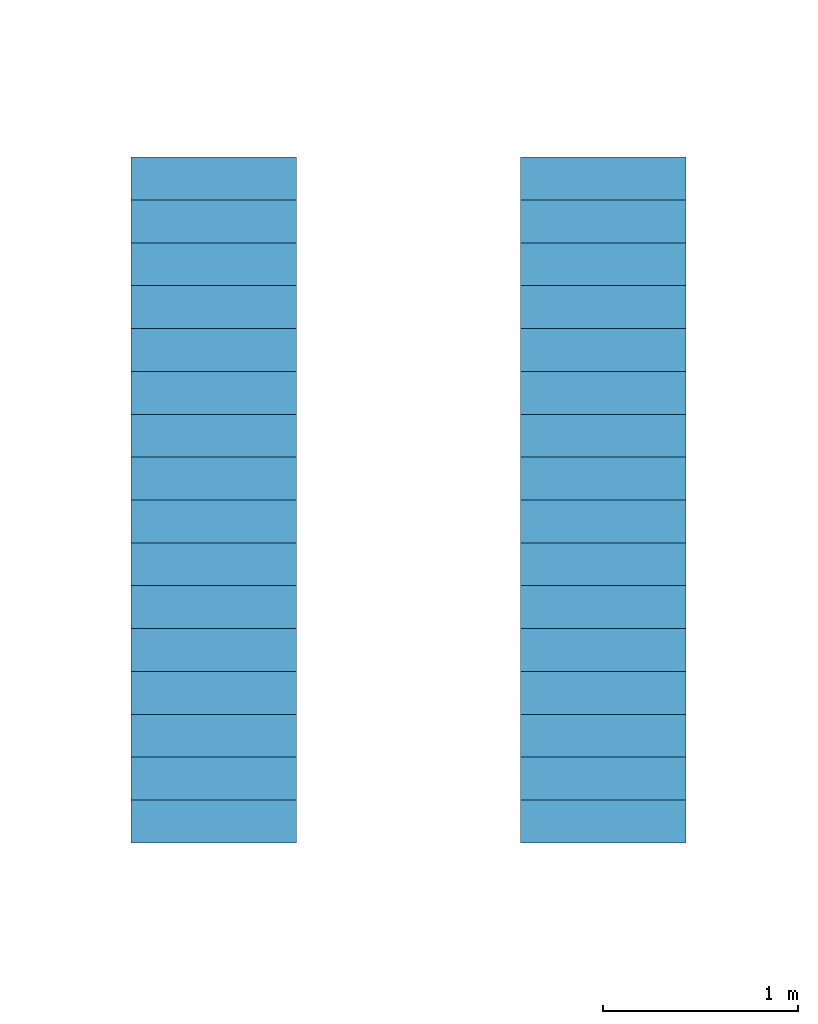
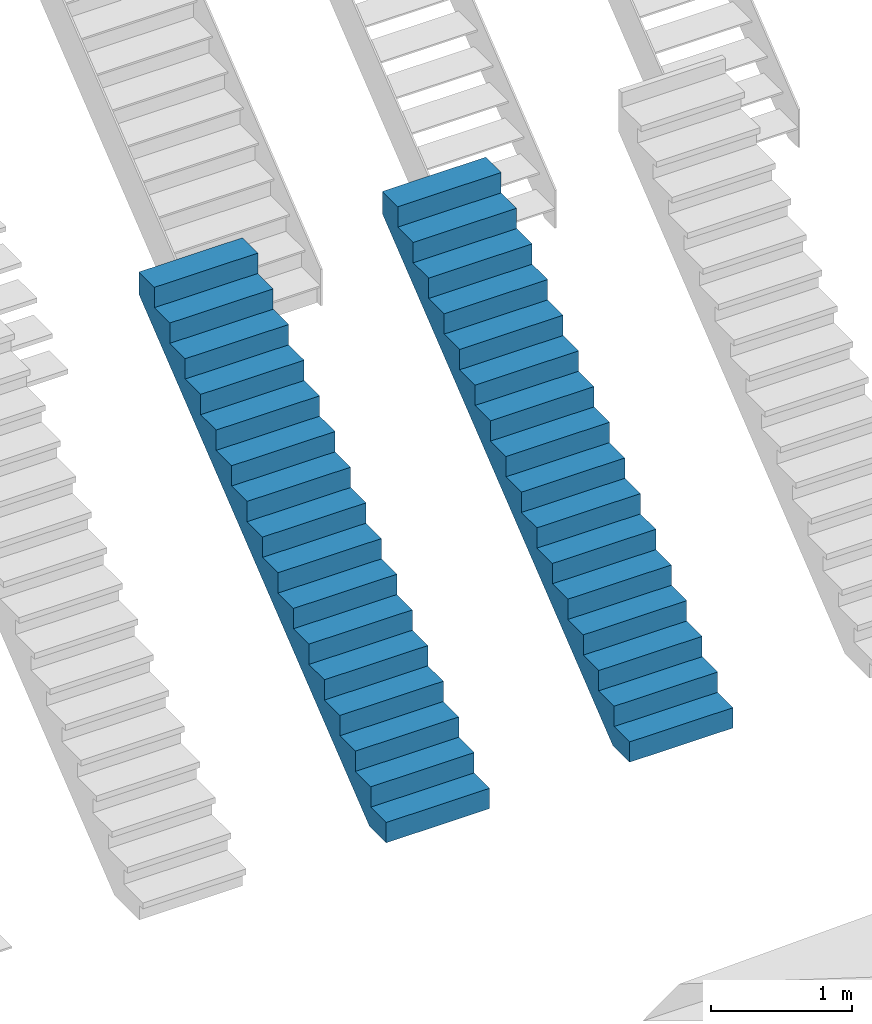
# One storey, part 6 of 11: 2 stairs, 2 elements without a shape of their own.
"""IFC2X3 building model written with IfcOpenShell, lengths in millimetres."""

from ifc_helpers import new_model, entity, si_unit, converted_unit, derived_unit, direction, frame, origin, place, context, subcontext, project, spatial, faceted_brep, material, element, aggregate, save


model = new_model("IFC2X3")

# Units and contexts
model_context = context("Model", 3, precision=0.01, world=origin(), true_north=direction((6.12303176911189e-17, 1.0)))
body_context = subcontext(model_context, "Body", "Model", "MODEL_VIEW")
ifc_project = project(units=[si_unit("LENGTHUNIT", "METRE", prefix="MILLI"), si_unit("AREAUNIT", "SQUARE_METRE"), si_unit("VOLUMEUNIT", "CUBIC_METRE"), converted_unit("PLANEANGLEUNIT", "DEGREE", entity("IfcRatioMeasure", 0.0174532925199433), si_unit("PLANEANGLEUNIT", "RADIAN"), dimensions=[0, 0, 0, 0, 0, 0, 0]), si_unit("MASSUNIT", "GRAM", prefix="KILO"), si_unit("TIMEUNIT", "SECOND"), si_unit("FREQUENCYUNIT", "HERTZ"), si_unit("THERMODYNAMICTEMPERATUREUNIT", "KELVIN"), derived_unit("THERMALTRANSMITTANCEUNIT", [(si_unit("MASSUNIT", "GRAM", prefix="KILO"), 1), (si_unit("THERMODYNAMICTEMPERATUREUNIT", "KELVIN"), -1), (si_unit("TIMEUNIT", "SECOND"), -3)]), derived_unit("VOLUMETRICFLOWRATEUNIT", [(si_unit("LENGTHUNIT", "METRE"), 3), (si_unit("TIMEUNIT", "SECOND"), -1)]), si_unit("ELECTRICCURRENTUNIT", "AMPERE"), si_unit("ELECTRICVOLTAGEUNIT", "VOLT"), si_unit("POWERUNIT", "WATT")], contexts=[model_context])

# Site, building, storey
site_placement = place(None, origin())
site = spatial("IfcSite", under=ifc_project, at=site_placement, Name="Surface:5707", CompositionType="ELEMENT")
building_placement = place(site_placement, origin())
building = spatial("IfcBuilding", under=site, at=building_placement, CompositionType="ELEMENT")
storey_placement = place(building_placement, origin())
storey = spatial("IfcBuildingStorey", under=building, at=storey_placement, Name="00_begane grond", CompositionType="ELEMENT", Elevation=0.0)

# Stairs
stair_1_placement = place(storey_placement, frame((23349.8089026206, -31324.6322235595, 0.0)))
stair_1 = element("IfcStair", 1, at=stair_1_placement, inside=storey, Name="Cast-In-Place Stair:Stair:69318 Run 1:Stair:69318 Run 1 : Cast-In-Place Stair:Stair:69318 Run 1:4172", ObjectType="Cast-In-Place Stair:Stair:69318 Run 1:Cast-In-Place Stair:Stair:69318 Run 1:4170", ShapeType="NOTDEFINED")
ifc_material = material(Name="24_beton_prefab_generiek")
stair_2_placement = place(stair_1_placement, origin())
stair_2 = element("IfcStair", 2, at=stair_2_placement, material=ifc_material, Name="Cast-In-Place Stair:Stair:69318 Run 1:Stair:69318 Run 1 : Cast-In-Place Stair:Stair:69318 Run 1:4172", ObjectType="Cast-In-Place Stair:Stair:69318 Run 1:Cast-In-Place Stair:Stair:69318 Run 1:4170", ShapeType="NOTDEFINED", context=body_context, shape_type="Brep", body=[
    faceted_brep([(0.0, 220.0, 176.470588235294), (0.0, 0.0, 176.470588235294), (850.0, 0.0, 176.470588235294), (850.0, 220.0, 176.470588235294)], [[[0, 1, 2, 3]]]),
    faceted_brep([(0.0, 0.0, 176.470588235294), (0.0, 220.0, 176.470588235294), (0.0, 220.0, 0.0), (0.0, 0.0, 0.0)], [[[0, 1, 2, 3]]]),
    faceted_brep([(850.0, 0.0, 176.470588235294), (0.0, 0.0, 176.470588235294), (0.0, 0.0, 0.0), (850.0, 0.0, 0.0)], [[[0, 1, 2, 3]]]),
    faceted_brep([(850.0, 220.0, 176.470588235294), (850.0, 0.0, 176.470588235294), (850.0, 0.0, 0.0), (850.0, 220.0, 0.0)], [[[0, 1, 2, 3]]]),
    faceted_brep([(0.0, 440.0, 352.941176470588), (0.0, 220.0, 352.941176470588), (850.0, 220.0, 352.941176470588), (850.0, 440.0, 352.941176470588)], [[[0, 1, 2, 3]]]),
    faceted_brep([(0.0, 220.0, 0.0), (0.0, 220.0, 176.470588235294), (0.0, 220.0, 352.941176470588), (0.0, 440.0, 352.941176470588), (0.0, 440.0, 160.646849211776), (0.0, 239.726927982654, 0.0)], [[[0, 1, 2, 3, 4, 5]]]),
    faceted_brep([(0.0, 220.0, 176.470588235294), (850.0, 220.0, 176.470588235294), (850.0, 220.0, 352.941176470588), (0.0, 220.0, 352.941176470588)], [[[0, 1, 2, 3]]]),
    faceted_brep([(850.0, 220.0, 176.470588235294), (850.0, 220.0, 0.0), (850.0, 239.726927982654, 0.0), (850.0, 440.0, 160.646849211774), (850.0, 440.0, 352.941176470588), (850.0, 220.0, 352.941176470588)], [[[0, 1, 2, 3, 4, 5]]]),
    faceted_brep([(0.0, 660.0, 529.411764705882), (0.0, 440.0, 529.411764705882), (850.0, 440.0, 529.411764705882), (850.0, 660.0, 529.411764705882)], [[[0, 1, 2, 3]]]),
    faceted_brep([(0.0, 440.0, 529.411764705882), (0.0, 660.0, 529.411764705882), (0.0, 660.0, 337.117437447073), (0.0, 440.0, 160.646849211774), (0.0, 440.0, 352.941176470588)], [[[0, 1, 2, 3, 4]]]),
    faceted_brep([(0.0, 440.0, 352.941176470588), (850.0, 440.0, 352.941176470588), (850.0, 440.0, 529.411764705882), (0.0, 440.0, 529.411764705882)], [[[0, 1, 2, 3]]]),
    faceted_brep([(850.0, 660.0, 529.411764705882), (850.0, 440.0, 529.411764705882), (850.0, 440.0, 352.941176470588), (850.0, 440.0, 160.646849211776), (850.0, 660.0, 337.117437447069)], [[[0, 1, 2, 3, 4]]]),
    faceted_brep([(0.0, 880.0, 705.882352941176), (0.0, 660.0, 705.882352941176), (850.0, 660.0, 705.882352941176), (850.0, 880.0, 705.882352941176)], [[[0, 1, 2, 3]]]),
    faceted_brep([(0.0, 660.0, 705.882352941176), (0.0, 880.0, 705.882352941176), (0.0, 880.0, 513.588025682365), (0.0, 660.0, 337.117437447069), (0.0, 660.0, 529.411764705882)], [[[0, 1, 2, 3, 4]]]),
    faceted_brep([(0.0, 660.0, 529.411764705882), (850.0, 660.0, 529.411764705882), (850.0, 660.0, 705.882352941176), (0.0, 660.0, 705.882352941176)], [[[0, 1, 2, 3]]]),
    faceted_brep([(850.0, 880.0, 705.882352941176), (850.0, 660.0, 705.882352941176), (850.0, 660.0, 529.411764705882), (850.0, 660.0, 337.117437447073), (850.0, 880.0, 513.588025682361)], [[[0, 1, 2, 3, 4]]]),
    faceted_brep([(0.0, 1100.0, 882.35294117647), (0.0, 880.0, 882.35294117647), (850.0, 880.0, 882.35294117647), (850.0, 1100.0, 882.35294117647)], [[[0, 1, 2, 3]]]),
    faceted_brep([(0.0, 880.0, 882.35294117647), (0.0, 1100.0, 882.35294117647), (0.0, 1100.0, 690.058613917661), (0.0, 880.0, 513.588025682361), (0.0, 880.0, 705.882352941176)], [[[0, 1, 2, 3, 4]]]),
    faceted_brep([(0.0, 880.0, 705.882352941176), (850.0, 880.0, 705.882352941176), (850.0, 880.0, 882.35294117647), (0.0, 880.0, 882.35294117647)], [[[0, 1, 2, 3]]]),
    faceted_brep([(850.0, 1100.0, 882.35294117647), (850.0, 880.0, 882.35294117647), (850.0, 880.0, 705.882352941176), (850.0, 880.0, 513.588025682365), (850.0, 1100.0, 690.058613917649)], [[[0, 1, 2, 3, 4]]]),
    faceted_brep([(0.0, 1320.0, 1058.82352941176), (0.0, 1100.0, 1058.82352941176), (850.0, 1100.0, 1058.82352941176), (850.0, 1320.0, 1058.82352941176)], [[[0, 1, 2, 3]]]),
    faceted_brep([(0.0, 1100.0, 1058.82352941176), (0.0, 1320.0, 1058.82352941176), (0.0, 1320.0, 866.529202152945), (0.0, 1100.0, 690.058613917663), (0.0, 1100.0, 882.35294117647)], [[[0, 1, 2, 3, 4]]]),
    faceted_brep([(0.0, 1100.0, 882.35294117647), (850.0, 1100.0, 882.35294117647), (850.0, 1100.0, 1058.82352941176), (0.0, 1100.0, 1058.82352941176)], [[[0, 1, 2, 3]]]),
    faceted_brep([(850.0, 1320.0, 1058.82352941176), (850.0, 1100.0, 1058.82352941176), (850.0, 1100.0, 882.35294117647), (850.0, 1100.0, 690.058613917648), (850.0, 1320.0, 866.529202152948)], [[[0, 1, 2, 3, 4]]]),
    faceted_brep([(0.0, 1540.0, 1235.29411764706), (0.0, 1320.0, 1235.29411764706), (850.0, 1320.0, 1235.29411764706), (850.0, 1540.0, 1235.29411764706)], [[[0, 1, 2, 3]]]),
    faceted_brep([(0.0, 1320.0, 1235.29411764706), (0.0, 1540.0, 1235.29411764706), (0.0, 1540.0, 1042.99979038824), (0.0, 1320.0, 866.529202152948), (0.0, 1320.0, 1058.82352941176)], [[[0, 1, 2, 3, 4]]]),
    faceted_brep([(0.0, 1320.0, 1058.82352941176), (850.0, 1320.0, 1058.82352941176), (850.0, 1320.0, 1235.29411764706), (0.0, 1320.0, 1235.29411764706)], [[[0, 1, 2, 3]]]),
    faceted_brep([(850.0, 1540.0, 1235.29411764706), (850.0, 1320.0, 1235.29411764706), (850.0, 1320.0, 1058.82352941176), (850.0, 1320.0, 866.529202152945), (850.0, 1540.0, 1042.99979038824)], [[[0, 1, 2, 3, 4]]]),
    faceted_brep([(0.0, 1760.0, 1411.76470588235), (0.0, 1540.0, 1411.76470588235), (850.0, 1540.0, 1411.76470588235), (850.0, 1760.0, 1411.76470588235)], [[[0, 1, 2, 3]]]),
    faceted_brep([(0.0, 1540.0, 1411.76470588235), (0.0, 1760.0, 1411.76470588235), (0.0, 1760.0, 1219.47037862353), (0.0, 1540.0, 1042.99979038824), (0.0, 1540.0, 1235.29411764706)], [[[0, 1, 2, 3, 4]]]),
    faceted_brep([(0.0, 1540.0, 1235.29411764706), (850.0, 1540.0, 1235.29411764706), (850.0, 1540.0, 1411.76470588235), (0.0, 1540.0, 1411.76470588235)], [[[0, 1, 2, 3]]]),
    faceted_brep([(850.0, 1760.0, 1411.76470588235), (850.0, 1540.0, 1411.76470588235), (850.0, 1540.0, 1235.29411764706), (850.0, 1540.0, 1042.99979038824), (850.0, 1760.0, 1219.47037862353)], [[[0, 1, 2, 3, 4]]]),
    faceted_brep([(0.0, 1980.0, 1588.23529411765), (0.0, 1760.0, 1588.23529411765), (850.0, 1760.0, 1588.23529411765), (850.0, 1980.0, 1588.23529411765)], [[[0, 1, 2, 3]]]),
    faceted_brep([(0.0, 1760.0, 1588.23529411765), (0.0, 1980.0, 1588.23529411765), (0.0, 1980.0, 1395.94096685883), (0.0, 1760.0, 1219.47037862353), (0.0, 1760.0, 1411.76470588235)], [[[0, 1, 2, 3, 4]]]),
    faceted_brep([(0.0, 1760.0, 1411.76470588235), (850.0, 1760.0, 1411.76470588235), (850.0, 1760.0, 1588.23529411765), (0.0, 1760.0, 1588.23529411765)], [[[0, 1, 2, 3]]]),
    faceted_brep([(850.0, 1980.0, 1588.23529411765), (850.0, 1760.0, 1588.23529411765), (850.0, 1760.0, 1411.76470588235), (850.0, 1760.0, 1219.47037862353), (850.0, 1980.0, 1395.94096685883)], [[[0, 1, 2, 3, 4]]]),
    faceted_brep([(0.0, 2200.0, 1764.70588235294), (0.0, 1980.0, 1764.70588235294), (850.0, 1980.0, 1764.70588235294), (850.0, 2200.0, 1764.70588235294)], [[[0, 1, 2, 3]]]),
    faceted_brep([(0.0, 1980.0, 1764.70588235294), (0.0, 2200.0, 1764.70588235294), (0.0, 2200.0, 1572.41155509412), (0.0, 1980.0, 1395.94096685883), (0.0, 1980.0, 1588.23529411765)], [[[0, 1, 2, 3, 4]]]),
    faceted_brep([(0.0, 1980.0, 1588.23529411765), (850.0, 1980.0, 1588.23529411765), (850.0, 1980.0, 1764.70588235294), (0.0, 1980.0, 1764.70588235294)], [[[0, 1, 2, 3]]]),
    faceted_brep([(850.0, 2200.0, 1764.70588235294), (850.0, 1980.0, 1764.70588235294), (850.0, 1980.0, 1588.23529411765), (850.0, 1980.0, 1395.94096685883), (850.0, 2200.0, 1572.41155509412)], [[[0, 1, 2, 3, 4]]]),
    faceted_brep([(0.0, 2420.0, 1941.17647058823), (0.0, 2200.0, 1941.17647058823), (850.0, 2200.0, 1941.17647058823), (850.0, 2420.0, 1941.17647058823)], [[[0, 1, 2, 3]]]),
    faceted_brep([(0.0, 2200.0, 1941.17647058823), (0.0, 2420.0, 1941.17647058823), (0.0, 2420.0, 1748.88214332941), (0.0, 2200.0, 1572.41155509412), (0.0, 2200.0, 1764.70588235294)], [[[0, 1, 2, 3, 4]]]),
    faceted_brep([(0.0, 2200.0, 1764.70588235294), (850.0, 2200.0, 1764.70588235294), (850.0, 2200.0, 1941.17647058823), (0.0, 2200.0, 1941.17647058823)], [[[0, 1, 2, 3]]]),
    faceted_brep([(850.0, 2420.0, 1941.17647058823), (850.0, 2200.0, 1941.17647058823), (850.0, 2200.0, 1764.70588235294), (850.0, 2200.0, 1572.41155509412), (850.0, 2420.0, 1748.88214332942)], [[[0, 1, 2, 3, 4]]]),
    faceted_brep([(0.0, 2640.0, 2117.64705882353), (0.0, 2420.0, 2117.64705882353), (850.0, 2420.0, 2117.64705882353), (850.0, 2640.0, 2117.64705882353)], [[[0, 1, 2, 3]]]),
    faceted_brep([(0.0, 2420.0, 2117.64705882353), (0.0, 2640.0, 2117.64705882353), (0.0, 2640.0, 1925.35273156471), (0.0, 2420.0, 1748.88214332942), (0.0, 2420.0, 1941.17647058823)], [[[0, 1, 2, 3, 4]]]),
    faceted_brep([(0.0, 2420.0, 1941.17647058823), (850.0, 2420.0, 1941.17647058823), (850.0, 2420.0, 2117.64705882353), (0.0, 2420.0, 2117.64705882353)], [[[0, 1, 2, 3]]]),
    faceted_brep([(850.0, 2640.0, 2117.64705882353), (850.0, 2420.0, 2117.64705882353), (850.0, 2420.0, 1941.17647058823), (850.0, 2420.0, 1748.88214332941), (850.0, 2640.0, 1925.35273156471)], [[[0, 1, 2, 3, 4]]]),
    faceted_brep([(0.0, 2860.0, 2294.11764705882), (0.0, 2640.0, 2294.11764705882), (850.0, 2640.0, 2294.11764705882), (850.0, 2860.0, 2294.11764705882)], [[[0, 1, 2, 3]]]),
    faceted_brep([(0.0, 2640.0, 2294.11764705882), (0.0, 2860.0, 2294.11764705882), (0.0, 2860.0, 2101.8233198), (0.0, 2640.0, 1925.35273156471), (0.0, 2640.0, 2117.64705882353)], [[[0, 1, 2, 3, 4]]]),
    faceted_brep([(0.0, 2640.0, 2117.64705882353), (850.0, 2640.0, 2117.64705882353), (850.0, 2640.0, 2294.11764705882), (0.0, 2640.0, 2294.11764705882)], [[[0, 1, 2, 3]]]),
    faceted_brep([(850.0, 2860.0, 2294.11764705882), (850.0, 2640.0, 2294.11764705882), (850.0, 2640.0, 2117.64705882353), (850.0, 2640.0, 1925.35273156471), (850.0, 2860.0, 2101.8233198)], [[[0, 1, 2, 3, 4]]]),
    faceted_brep([(0.0, 3080.0, 2470.58823529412), (0.0, 2860.0, 2470.58823529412), (850.0, 2860.0, 2470.58823529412), (850.0, 3080.0, 2470.58823529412)], [[[0, 1, 2, 3]]]),
    faceted_brep([(0.0, 2860.0, 2470.58823529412), (0.0, 3080.0, 2470.58823529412), (0.0, 3080.0, 2278.2939080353), (0.0, 2860.0, 2101.8233198), (0.0, 2860.0, 2294.11764705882)], [[[0, 1, 2, 3, 4]]]),
    faceted_brep([(0.0, 2860.0, 2294.11764705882), (850.0, 2860.0, 2294.11764705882), (850.0, 2860.0, 2470.58823529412), (0.0, 2860.0, 2470.58823529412)], [[[0, 1, 2, 3]]]),
    faceted_brep([(850.0, 3080.0, 2470.58823529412), (850.0, 2860.0, 2470.58823529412), (850.0, 2860.0, 2294.11764705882), (850.0, 2860.0, 2101.8233198), (850.0, 3080.0, 2278.2939080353)], [[[0, 1, 2, 3, 4]]]),
    faceted_brep([(0.0, 3300.0, 2647.05882352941), (0.0, 3080.0, 2647.05882352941), (850.0, 3080.0, 2647.05882352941), (850.0, 3300.0, 2647.05882352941)], [[[0, 1, 2, 3]]]),
    faceted_brep([(0.0, 3080.0, 2647.05882352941), (0.0, 3300.0, 2647.05882352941), (0.0, 3300.0, 2454.76449627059), (0.0, 3080.0, 2278.2939080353), (0.0, 3080.0, 2470.58823529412)], [[[0, 1, 2, 3, 4]]]),
    faceted_brep([(0.0, 3080.0, 2470.58823529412), (850.0, 3080.0, 2470.58823529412), (850.0, 3080.0, 2647.05882352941), (0.0, 3080.0, 2647.05882352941)], [[[0, 1, 2, 3]]]),
    faceted_brep([(850.0, 3300.0, 2647.05882352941), (850.0, 3080.0, 2647.05882352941), (850.0, 3080.0, 2470.58823529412), (850.0, 3080.0, 2278.2939080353), (850.0, 3300.0, 2454.76449627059)], [[[0, 1, 2, 3, 4]]]),
    faceted_brep([(0.0, 3520.0, 2823.5294117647), (0.0, 3300.0, 2823.5294117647), (850.0, 3300.0, 2823.5294117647), (850.0, 3520.0, 2823.5294117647)], [[[0, 1, 2, 3]]]),
    faceted_brep([(0.0, 3300.0, 2823.5294117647), (0.0, 3520.0, 2823.5294117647), (0.0, 3520.0, 2631.23508450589), (0.0, 3300.0, 2454.76449627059), (0.0, 3300.0, 2647.05882352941)], [[[0, 1, 2, 3, 4]]]),
    faceted_brep([(0.0, 3300.0, 2647.05882352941), (850.0, 3300.0, 2647.05882352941), (850.0, 3300.0, 2823.5294117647), (0.0, 3300.0, 2823.5294117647)], [[[0, 1, 2, 3]]]),
    faceted_brep([(850.0, 3520.0, 2823.5294117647), (850.0, 3300.0, 2823.5294117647), (850.0, 3300.0, 2647.05882352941), (850.0, 3300.0, 2454.76449627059), (850.0, 3520.0, 2631.23508450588)], [[[0, 1, 2, 3, 4]]]),
    faceted_brep([(0.0, 3520.0, 2823.5294117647), (850.0, 3520.0, 2823.5294117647), (850.0, 3520.0, 2631.23508450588), (0.0, 3520.0, 2631.23508450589)], [[[0, 1, 2, 3]]]),
    faceted_brep([(0.0, 0.0, 0.0), (0.0, 220.0, 0.0), (0.0, 239.726927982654, 0.0), (850.0, 239.726927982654, 0.0), (850.0, 220.0, 0.0), (850.0, 0.0, 0.0)], [[[0, 1, 2, 3, 4, 5]]]),
    faceted_brep([(850.0, 239.72692798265, 0.0), (0.0, 239.72692798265, 0.0), (0.0, 440.0, 160.646849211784), (0.0, 660.0, 337.117437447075), (0.0, 880.0, 513.588025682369), (0.0, 1100.0, 690.058613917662), (0.0, 1320.0, 866.529202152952), (0.0, 1540.0, 1042.99979038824), (0.0, 1760.0, 1219.47037862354), (0.0, 1980.0, 1395.94096685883), (0.0, 2200.0, 1572.41155509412), (0.0, 2420.0, 1748.88214332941), (0.0, 2640.0, 1925.35273156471), (0.0, 2860.0, 2101.8233198), (0.0, 3080.0, 2278.29390803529), (0.0, 3300.0, 2454.76449627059), (0.0, 3520.0, 2631.23508450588), (850.0, 3520.0, 2631.23508450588), (850.0, 3300.0, 2454.76449627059), (850.0, 3080.0, 2278.29390803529), (850.0, 2860.0, 2101.8233198), (850.0, 2640.0, 1925.35273156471), (850.0, 2420.0, 1748.88214332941), (850.0, 2200.0, 1572.41155509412), (850.0, 1980.0, 1395.94096685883), (850.0, 1760.0, 1219.47037862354), (850.0, 1540.0, 1042.99979038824), (850.0, 1320.0, 866.529202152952), (850.0, 1100.0, 690.058613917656), (850.0, 880.0, 513.588025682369), (850.0, 660.0, 337.117437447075), (850.0, 440.0, 160.646849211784)], [[[0, 1, 2, 3, 4, 5, 6, 7, 8, 9, 10, 11, 12, 13, 14, 15, 16, 17, 18, 19, 20, 21, 22, 23, 24, 25, 26, 27, 28, 29, 30, 31]]]),
])
aggregate(stair_1, [stair_2])

stair_3_placement = place(storey_placement, frame((25349.8089026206, -31324.6322235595, 0.0)))
stair_3 = element("IfcStair", 3, at=stair_3_placement, inside=storey, Name="Precast Stair:Stair:69323 Run 1:Stair:69323 Run 1 : Precast Stair:Stair:69323 Run 1:4183", ObjectType="Precast Stair:Stair:69323 Run 1:Precast Stair:Stair:69323 Run 1:4181", ShapeType="NOTDEFINED")
stair_4_placement = place(stair_3_placement, origin())
stair_4 = element("IfcStair", 4, at=stair_4_placement, material=ifc_material, Name="Precast Stair:Stair:69323 Run 1:Stair:69323 Run 1 : Precast Stair:Stair:69323 Run 1:4183", ObjectType="Precast Stair:Stair:69323 Run 1:Precast Stair:Stair:69323 Run 1:4181", ShapeType="NOTDEFINED", context=body_context, shape_type="Brep", body=[
    faceted_brep([(0.0, 220.0, 176.470588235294), (0.0, 0.0, 176.470588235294), (850.0, 0.0, 176.470588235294), (850.0, 220.0, 176.470588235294)], [[[0, 1, 2, 3]]]),
    faceted_brep([(0.0, 0.0, 176.470588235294), (0.0, 220.0, 176.470588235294), (0.0, 220.0, 0.0), (0.0, 0.0, 0.0)], [[[0, 1, 2, 3]]]),
    faceted_brep([(850.0, 0.0, 176.470588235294), (0.0, 0.0, 176.470588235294), (0.0, 0.0, 0.0), (850.0, 0.0, 0.0)], [[[0, 1, 2, 3]]]),
    faceted_brep([(850.0, 220.0, 176.470588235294), (850.0, 0.0, 176.470588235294), (850.0, 0.0, 0.0), (850.0, 220.0, 0.0)], [[[0, 1, 2, 3]]]),
    faceted_brep([(0.0, 440.0, 352.941176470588), (0.0, 220.0, 352.941176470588), (850.0, 220.0, 352.941176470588), (850.0, 440.0, 352.941176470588)], [[[0, 1, 2, 3]]]),
    faceted_brep([(0.0, 220.0, 0.0), (0.0, 220.0, 176.470588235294), (0.0, 220.0, 352.941176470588), (0.0, 440.0, 352.941176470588), (0.0, 440.0, 160.646849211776), (0.0, 239.726927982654, 0.0)], [[[0, 1, 2, 3, 4, 5]]]),
    faceted_brep([(0.0, 220.0, 176.470588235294), (850.0, 220.0, 176.470588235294), (850.0, 220.0, 352.941176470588), (0.0, 220.0, 352.941176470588)], [[[0, 1, 2, 3]]]),
    faceted_brep([(850.0, 220.0, 176.470588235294), (850.0, 220.0, 0.0), (850.0, 239.726927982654, 0.0), (850.0, 440.0, 160.646849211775), (850.0, 440.0, 352.941176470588), (850.0, 220.0, 352.941176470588)], [[[0, 1, 2, 3, 4, 5]]]),
    faceted_brep([(0.0, 660.0, 529.411764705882), (0.0, 440.0, 529.411764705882), (850.0, 440.0, 529.411764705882), (850.0, 660.0, 529.411764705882)], [[[0, 1, 2, 3]]]),
    faceted_brep([(0.0, 440.0, 529.411764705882), (0.0, 660.0, 529.411764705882), (0.0, 660.0, 337.117437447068), (0.0, 440.0, 160.646849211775), (0.0, 440.0, 352.941176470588)], [[[0, 1, 2, 3, 4]]]),
    faceted_brep([(0.0, 440.0, 352.941176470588), (850.0, 440.0, 352.941176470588), (850.0, 440.0, 529.411764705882), (0.0, 440.0, 529.411764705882)], [[[0, 1, 2, 3]]]),
    faceted_brep([(850.0, 660.0, 529.411764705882), (850.0, 440.0, 529.411764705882), (850.0, 440.0, 352.941176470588), (850.0, 440.0, 160.646849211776), (850.0, 660.0, 337.117437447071)], [[[0, 1, 2, 3, 4]]]),
    faceted_brep([(0.0, 880.0, 705.882352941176), (0.0, 660.0, 705.882352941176), (850.0, 660.0, 705.882352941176), (850.0, 880.0, 705.882352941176)], [[[0, 1, 2, 3]]]),
    faceted_brep([(0.0, 660.0, 705.882352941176), (0.0, 880.0, 705.882352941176), (0.0, 880.0, 513.58802568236), (0.0, 660.0, 337.117437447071), (0.0, 660.0, 529.411764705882)], [[[0, 1, 2, 3, 4]]]),
    faceted_brep([(0.0, 660.0, 529.411764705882), (850.0, 660.0, 529.411764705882), (850.0, 660.0, 705.882352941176), (0.0, 660.0, 705.882352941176)], [[[0, 1, 2, 3]]]),
    faceted_brep([(850.0, 880.0, 705.882352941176), (850.0, 660.0, 705.882352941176), (850.0, 660.0, 529.411764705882), (850.0, 660.0, 337.117437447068), (850.0, 880.0, 513.588025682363)], [[[0, 1, 2, 3, 4]]]),
    faceted_brep([(0.0, 1100.0, 882.35294117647), (0.0, 880.0, 882.35294117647), (850.0, 880.0, 882.35294117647), (850.0, 1100.0, 882.35294117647)], [[[0, 1, 2, 3]]]),
    faceted_brep([(0.0, 880.0, 882.35294117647), (0.0, 1100.0, 882.35294117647), (0.0, 1100.0, 690.058613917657), (0.0, 880.0, 513.588025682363), (0.0, 880.0, 705.882352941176)], [[[0, 1, 2, 3, 4]]]),
    faceted_brep([(0.0, 880.0, 705.882352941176), (850.0, 880.0, 705.882352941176), (850.0, 880.0, 882.35294117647), (0.0, 880.0, 882.35294117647)], [[[0, 1, 2, 3]]]),
    faceted_brep([(850.0, 1100.0, 882.35294117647), (850.0, 880.0, 882.35294117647), (850.0, 880.0, 705.882352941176), (850.0, 880.0, 513.58802568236), (850.0, 1100.0, 690.058613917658)], [[[0, 1, 2, 3, 4]]]),
    faceted_brep([(0.0, 1320.0, 1058.82352941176), (0.0, 1100.0, 1058.82352941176), (850.0, 1100.0, 1058.82352941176), (850.0, 1320.0, 1058.82352941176)], [[[0, 1, 2, 3]]]),
    faceted_brep([(0.0, 1100.0, 1058.82352941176), (0.0, 1320.0, 1058.82352941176), (0.0, 1320.0, 866.529202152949), (0.0, 1100.0, 690.058613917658), (0.0, 1100.0, 882.35294117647)], [[[0, 1, 2, 3, 4]]]),
    faceted_brep([(0.0, 1100.0, 882.35294117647), (850.0, 1100.0, 882.35294117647), (850.0, 1100.0, 1058.82352941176), (0.0, 1100.0, 1058.82352941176)], [[[0, 1, 2, 3]]]),
    faceted_brep([(850.0, 1320.0, 1058.82352941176), (850.0, 1100.0, 1058.82352941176), (850.0, 1100.0, 882.35294117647), (850.0, 1100.0, 690.058613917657), (850.0, 1320.0, 866.52920215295)], [[[0, 1, 2, 3, 4]]]),
    faceted_brep([(0.0, 1540.0, 1235.29411764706), (0.0, 1320.0, 1235.29411764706), (850.0, 1320.0, 1235.29411764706), (850.0, 1540.0, 1235.29411764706)], [[[0, 1, 2, 3]]]),
    faceted_brep([(0.0, 1320.0, 1235.29411764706), (0.0, 1540.0, 1235.29411764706), (0.0, 1540.0, 1042.99979038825), (0.0, 1320.0, 866.52920215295), (0.0, 1320.0, 1058.82352941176)], [[[0, 1, 2, 3, 4]]]),
    faceted_brep([(0.0, 1320.0, 1058.82352941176), (850.0, 1320.0, 1058.82352941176), (850.0, 1320.0, 1235.29411764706), (0.0, 1320.0, 1235.29411764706)], [[[0, 1, 2, 3]]]),
    faceted_brep([(850.0, 1540.0, 1235.29411764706), (850.0, 1320.0, 1235.29411764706), (850.0, 1320.0, 1058.82352941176), (850.0, 1320.0, 866.529202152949), (850.0, 1540.0, 1042.99979038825)], [[[0, 1, 2, 3, 4]]]),
    faceted_brep([(0.0, 1760.0, 1411.76470588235), (0.0, 1540.0, 1411.76470588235), (850.0, 1540.0, 1411.76470588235), (850.0, 1760.0, 1411.76470588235)], [[[0, 1, 2, 3]]]),
    faceted_brep([(0.0, 1540.0, 1411.76470588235), (0.0, 1760.0, 1411.76470588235), (0.0, 1760.0, 1219.47037862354), (0.0, 1540.0, 1042.99979038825), (0.0, 1540.0, 1235.29411764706)], [[[0, 1, 2, 3, 4]]]),
    faceted_brep([(0.0, 1540.0, 1235.29411764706), (850.0, 1540.0, 1235.29411764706), (850.0, 1540.0, 1411.76470588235), (0.0, 1540.0, 1411.76470588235)], [[[0, 1, 2, 3]]]),
    faceted_brep([(850.0, 1760.0, 1411.76470588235), (850.0, 1540.0, 1411.76470588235), (850.0, 1540.0, 1235.29411764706), (850.0, 1540.0, 1042.99979038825), (850.0, 1760.0, 1219.47037862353)], [[[0, 1, 2, 3, 4]]]),
    faceted_brep([(0.0, 1980.0, 1588.23529411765), (0.0, 1760.0, 1588.23529411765), (850.0, 1760.0, 1588.23529411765), (850.0, 1980.0, 1588.23529411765)], [[[0, 1, 2, 3]]]),
    faceted_brep([(0.0, 1760.0, 1588.23529411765), (0.0, 1980.0, 1588.23529411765), (0.0, 1980.0, 1395.94096685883), (0.0, 1760.0, 1219.47037862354), (0.0, 1760.0, 1411.76470588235)], [[[0, 1, 2, 3, 4]]]),
    faceted_brep([(0.0, 1760.0, 1411.76470588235), (850.0, 1760.0, 1411.76470588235), (850.0, 1760.0, 1588.23529411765), (0.0, 1760.0, 1588.23529411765)], [[[0, 1, 2, 3]]]),
    faceted_brep([(850.0, 1980.0, 1588.23529411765), (850.0, 1760.0, 1588.23529411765), (850.0, 1760.0, 1411.76470588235), (850.0, 1760.0, 1219.47037862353), (850.0, 1980.0, 1395.94096685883)], [[[0, 1, 2, 3, 4]]]),
    faceted_brep([(0.0, 2200.0, 1764.70588235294), (0.0, 1980.0, 1764.70588235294), (850.0, 1980.0, 1764.70588235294), (850.0, 2200.0, 1764.70588235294)], [[[0, 1, 2, 3]]]),
    faceted_brep([(0.0, 1980.0, 1764.70588235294), (0.0, 2200.0, 1764.70588235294), (0.0, 2200.0, 1572.41155509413), (0.0, 1980.0, 1395.94096685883), (0.0, 1980.0, 1588.23529411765)], [[[0, 1, 2, 3, 4]]]),
    faceted_brep([(0.0, 1980.0, 1588.23529411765), (850.0, 1980.0, 1588.23529411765), (850.0, 1980.0, 1764.70588235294), (0.0, 1980.0, 1764.70588235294)], [[[0, 1, 2, 3]]]),
    faceted_brep([(850.0, 2200.0, 1764.70588235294), (850.0, 1980.0, 1764.70588235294), (850.0, 1980.0, 1588.23529411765), (850.0, 1980.0, 1395.94096685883), (850.0, 2200.0, 1572.41155509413)], [[[0, 1, 2, 3, 4]]]),
    faceted_brep([(0.0, 2420.0, 1941.17647058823), (0.0, 2200.0, 1941.17647058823), (850.0, 2200.0, 1941.17647058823), (850.0, 2420.0, 1941.17647058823)], [[[0, 1, 2, 3]]]),
    faceted_brep([(0.0, 2200.0, 1941.17647058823), (0.0, 2420.0, 1941.17647058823), (0.0, 2420.0, 1748.88214332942), (0.0, 2200.0, 1572.41155509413), (0.0, 2200.0, 1764.70588235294)], [[[0, 1, 2, 3, 4]]]),
    faceted_brep([(0.0, 2200.0, 1764.70588235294), (850.0, 2200.0, 1764.70588235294), (850.0, 2200.0, 1941.17647058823), (0.0, 2200.0, 1941.17647058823)], [[[0, 1, 2, 3]]]),
    faceted_brep([(850.0, 2420.0, 1941.17647058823), (850.0, 2200.0, 1941.17647058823), (850.0, 2200.0, 1764.70588235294), (850.0, 2200.0, 1572.41155509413), (850.0, 2420.0, 1748.88214332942)], [[[0, 1, 2, 3, 4]]]),
    faceted_brep([(0.0, 2640.0, 2117.64705882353), (0.0, 2420.0, 2117.64705882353), (850.0, 2420.0, 2117.64705882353), (850.0, 2640.0, 2117.64705882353)], [[[0, 1, 2, 3]]]),
    faceted_brep([(0.0, 2420.0, 2117.64705882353), (0.0, 2640.0, 2117.64705882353), (0.0, 2640.0, 1925.35273156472), (0.0, 2420.0, 1748.88214332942), (0.0, 2420.0, 1941.17647058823)], [[[0, 1, 2, 3, 4]]]),
    faceted_brep([(0.0, 2420.0, 1941.17647058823), (850.0, 2420.0, 1941.17647058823), (850.0, 2420.0, 2117.64705882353), (0.0, 2420.0, 2117.64705882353)], [[[0, 1, 2, 3]]]),
    faceted_brep([(850.0, 2640.0, 2117.64705882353), (850.0, 2420.0, 2117.64705882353), (850.0, 2420.0, 1941.17647058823), (850.0, 2420.0, 1748.88214332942), (850.0, 2640.0, 1925.35273156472)], [[[0, 1, 2, 3, 4]]]),
    faceted_brep([(0.0, 2860.0, 2294.11764705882), (0.0, 2640.0, 2294.11764705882), (850.0, 2640.0, 2294.11764705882), (850.0, 2860.0, 2294.11764705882)], [[[0, 1, 2, 3]]]),
    faceted_brep([(0.0, 2640.0, 2294.11764705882), (0.0, 2860.0, 2294.11764705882), (0.0, 2860.0, 2101.82331980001), (0.0, 2640.0, 1925.35273156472), (0.0, 2640.0, 2117.64705882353)], [[[0, 1, 2, 3, 4]]]),
    faceted_brep([(0.0, 2640.0, 2117.64705882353), (850.0, 2640.0, 2117.64705882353), (850.0, 2640.0, 2294.11764705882), (0.0, 2640.0, 2294.11764705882)], [[[0, 1, 2, 3]]]),
    faceted_brep([(850.0, 2860.0, 2294.11764705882), (850.0, 2640.0, 2294.11764705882), (850.0, 2640.0, 2117.64705882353), (850.0, 2640.0, 1925.35273156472), (850.0, 2860.0, 2101.82331980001)], [[[0, 1, 2, 3, 4]]]),
    faceted_brep([(0.0, 3080.0, 2470.58823529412), (0.0, 2860.0, 2470.58823529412), (850.0, 2860.0, 2470.58823529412), (850.0, 3080.0, 2470.58823529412)], [[[0, 1, 2, 3]]]),
    faceted_brep([(0.0, 2860.0, 2470.58823529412), (0.0, 3080.0, 2470.58823529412), (0.0, 3080.0, 2278.2939080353), (0.0, 2860.0, 2101.82331980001), (0.0, 2860.0, 2294.11764705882)], [[[0, 1, 2, 3, 4]]]),
    faceted_brep([(0.0, 2860.0, 2294.11764705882), (850.0, 2860.0, 2294.11764705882), (850.0, 2860.0, 2470.58823529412), (0.0, 2860.0, 2470.58823529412)], [[[0, 1, 2, 3]]]),
    faceted_brep([(850.0, 3080.0, 2470.58823529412), (850.0, 2860.0, 2470.58823529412), (850.0, 2860.0, 2294.11764705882), (850.0, 2860.0, 2101.82331980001), (850.0, 3080.0, 2278.2939080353)], [[[0, 1, 2, 3, 4]]]),
    faceted_brep([(0.0, 3300.0, 2647.05882352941), (0.0, 3080.0, 2647.05882352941), (850.0, 3080.0, 2647.05882352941), (850.0, 3300.0, 2647.05882352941)], [[[0, 1, 2, 3]]]),
    faceted_brep([(0.0, 3080.0, 2647.05882352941), (0.0, 3300.0, 2647.05882352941), (0.0, 3300.0, 2454.7644962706), (0.0, 3080.0, 2278.2939080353), (0.0, 3080.0, 2470.58823529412)], [[[0, 1, 2, 3, 4]]]),
    faceted_brep([(0.0, 3080.0, 2470.58823529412), (850.0, 3080.0, 2470.58823529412), (850.0, 3080.0, 2647.05882352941), (0.0, 3080.0, 2647.05882352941)], [[[0, 1, 2, 3]]]),
    faceted_brep([(850.0, 3300.0, 2647.05882352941), (850.0, 3080.0, 2647.05882352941), (850.0, 3080.0, 2470.58823529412), (850.0, 3080.0, 2278.2939080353), (850.0, 3300.0, 2454.7644962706)], [[[0, 1, 2, 3, 4]]]),
    faceted_brep([(0.0, 3520.0, 2823.5294117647), (0.0, 3300.0, 2823.5294117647), (850.0, 3300.0, 2823.5294117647), (850.0, 3520.0, 2823.5294117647)], [[[0, 1, 2, 3]]]),
    faceted_brep([(0.0, 3300.0, 2823.5294117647), (0.0, 3520.0, 2823.5294117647), (0.0, 3520.0, 2631.23508450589), (0.0, 3300.0, 2454.7644962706), (0.0, 3300.0, 2647.05882352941)], [[[0, 1, 2, 3, 4]]]),
    faceted_brep([(0.0, 3300.0, 2647.05882352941), (850.0, 3300.0, 2647.05882352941), (850.0, 3300.0, 2823.5294117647), (0.0, 3300.0, 2823.5294117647)], [[[0, 1, 2, 3]]]),
    faceted_brep([(850.0, 3520.0, 2823.5294117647), (850.0, 3300.0, 2823.5294117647), (850.0, 3300.0, 2647.05882352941), (850.0, 3300.0, 2454.7644962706), (850.0, 3520.0, 2631.23508450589)], [[[0, 1, 2, 3, 4]]]),
    faceted_brep([(0.0, 3520.0, 2823.5294117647), (850.0, 3520.0, 2823.5294117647), (850.0, 3520.0, 2631.23508450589), (0.0, 3520.0, 2631.23508450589)], [[[0, 1, 2, 3]]]),
    faceted_brep([(0.0, 0.0, 0.0), (0.0, 220.0, 0.0), (0.0, 239.726927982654, 0.0), (850.0, 239.726927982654, 0.0), (850.0, 220.0, 0.0), (850.0, 0.0, 0.0)], [[[0, 1, 2, 3, 4, 5]]]),
    faceted_brep([(850.0, 239.726927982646, 0.0), (0.0, 239.726927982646, 0.0), (0.0, 440.0, 160.646849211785), (0.0, 660.0, 337.117437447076), (0.0, 880.0, 513.588025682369), (0.0, 1100.0, 690.058613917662), (0.0, 1320.0, 866.529202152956), (0.0, 1540.0, 1042.99979038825), (0.0, 1760.0, 1219.47037862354), (0.0, 1980.0, 1395.94096685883), (0.0, 2200.0, 1572.41155509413), (0.0, 2420.0, 1748.88214332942), (0.0, 2640.0, 1925.35273156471), (0.0, 2860.0, 2101.82331980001), (0.0, 3080.0, 2278.2939080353), (0.0, 3300.0, 2454.76449627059), (0.0, 3520.0, 2631.23508450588), (850.0, 3520.0, 2631.23508450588), (850.0, 3300.0, 2454.76449627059), (850.0, 3080.0, 2278.2939080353), (850.0, 2860.0, 2101.82331980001), (850.0, 2640.0, 1925.35273156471), (850.0, 2420.0, 1748.88214332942), (850.0, 2200.0, 1572.41155509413), (850.0, 1980.0, 1395.94096685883), (850.0, 1760.0, 1219.47037862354), (850.0, 1540.0, 1042.99979038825), (850.0, 1320.0, 866.529202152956), (850.0, 1100.0, 690.058613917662), (850.0, 880.0, 513.588025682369), (850.0, 660.0, 337.117437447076), (850.0, 440.0, 160.646849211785)], [[[0, 1, 2, 3, 4, 5, 6, 7, 8, 9, 10, 11, 12, 13, 14, 15, 16, 17, 18, 19, 20, 21, 22, 23, 24, 25, 26, 27, 28, 29, 30, 31]]]),
])
aggregate(stair_3, [stair_4])

save(model, "model.ifc")
